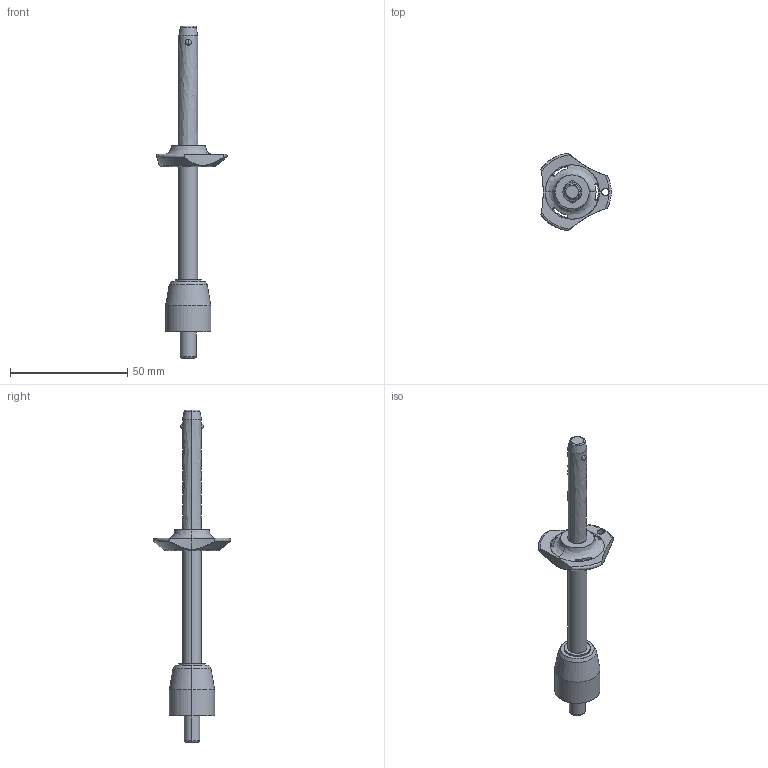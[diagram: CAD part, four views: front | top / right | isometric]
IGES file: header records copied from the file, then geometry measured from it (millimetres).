
Start section: SolidWorks IGES file using analytic representation for surfaces
Global section: file name: C:\Users\ianosborn\Desktop\QR1734_v2\QR1734_v2_20251113_IGES\QR1734.M08-100-S.igs; native system: SolidWorks 2019; preprocessor: SolidWorks 2019; author: IanOsborn; date: 251112.141520; units: millimetre
Bounding box: 30 x 33.01 x 141.5 mm (x, y, z)
Surface area: 6511.1 mm2 (no closed solid volume)
Topology: 0 solids, 0 shells, 65 faces, 1184 edges, 1180 vertices
Faces by surface type: revolution 48, bspline 17
